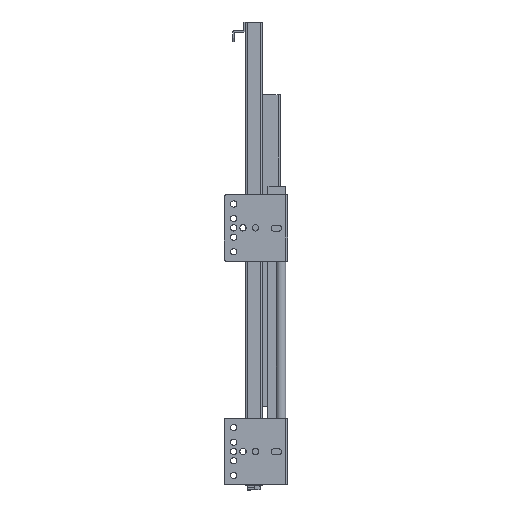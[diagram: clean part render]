
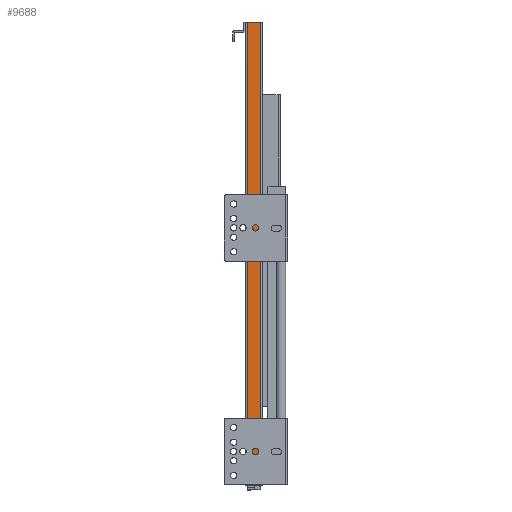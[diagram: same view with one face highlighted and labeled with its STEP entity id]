
A CAD part, left-side view. The second image highlights one B-rep face of the part: STEP entity #9688.
In plain terms, the highlighted planar face has unit normal (-1, 0, 0) as drawn and (1, 0, 0) by its records, which use the part's own axes.
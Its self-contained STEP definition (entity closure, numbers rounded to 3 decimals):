
#320=PLANE('',#10314);
#698=FACE_BOUND('',#3538,.T.);
#894=LINE('',#14156,#1950);
#898=LINE('',#14164,#1954);
#901=LINE('',#14170,#1957);
#904=LINE('',#14175,#1960);
#907=LINE('',#14185,#1963);
#908=LINE('',#14188,#1964);
#909=LINE('',#14190,#1965);
#910=LINE('',#14191,#1966);
#1950=VECTOR('',#11400,10.);
#1954=VECTOR('',#11406,10.);
#1957=VECTOR('',#11411,10.);
#1960=VECTOR('',#11416,10.);
#1963=VECTOR('',#11425,10.);
#1964=VECTOR('',#11428,10.);
#1965=VECTOR('',#11429,10.);
#1966=VECTOR('',#11430,10.);
#2970=FACE_OUTER_BOUND('',#3537,.T.);
#3537=EDGE_LOOP('',(#7065,#7066,#7067,#7068));
#3538=EDGE_LOOP('',(#7069,#7070,#7071,#7072));
#4513=VERTEX_POINT('',#14154);
#4514=VERTEX_POINT('',#14155);
#4517=VERTEX_POINT('',#14163);
#4519=VERTEX_POINT('',#14169);
#4521=VERTEX_POINT('',#14178);
#4524=VERTEX_POINT('',#14183);
#4525=VERTEX_POINT('',#14187);
#4526=VERTEX_POINT('',#14189);
#5494=EDGE_CURVE('',#4513,#4514,#894,.T.);
#5498=EDGE_CURVE('',#4514,#4517,#898,.T.);
#5501=EDGE_CURVE('',#4517,#4519,#901,.T.);
#5504=EDGE_CURVE('',#4519,#4513,#904,.T.);
#5509=EDGE_CURVE('',#4524,#4521,#907,.T.);
#5510=EDGE_CURVE('',#4524,#4525,#908,.T.);
#5511=EDGE_CURVE('',#4526,#4525,#909,.T.);
#5512=EDGE_CURVE('',#4521,#4526,#910,.T.);
#7065=ORIENTED_EDGE('',*,*,#5509,.F.);
#7066=ORIENTED_EDGE('',*,*,#5510,.T.);
#7067=ORIENTED_EDGE('',*,*,#5511,.F.);
#7068=ORIENTED_EDGE('',*,*,#5512,.F.);
#7069=ORIENTED_EDGE('',*,*,#5501,.T.);
#7070=ORIENTED_EDGE('',*,*,#5504,.T.);
#7071=ORIENTED_EDGE('',*,*,#5494,.T.);
#7072=ORIENTED_EDGE('',*,*,#5498,.T.);
#9688=ADVANCED_FACE('',(#2970,#698),#320,.T.);
#10314=AXIS2_PLACEMENT_3D('',#14186,#11426,#11427);
#11400=DIRECTION('',(0.,-1.,0.));
#11406=DIRECTION('',(0.,0.,1.));
#11411=DIRECTION('',(0.,1.,0.));
#11416=DIRECTION('',(0.,0.,-1.));
#11425=DIRECTION('',(0.,0.,1.));
#11426=DIRECTION('center_axis',(1.,0.,0.));
#11427=DIRECTION('ref_axis',(0.,1.,0.));
#11428=DIRECTION('',(0.,1.,0.));
#11429=DIRECTION('',(0.,0.,-1.));
#11430=DIRECTION('',(0.,1.,0.));
#14154=CARTESIAN_POINT('',(29.928,-3.375,-108.));
#14155=CARTESIAN_POINT('',(29.928,-10.387,-108.));
#14156=CARTESIAN_POINT('',(29.928,-10.188,-108.));
#14163=CARTESIAN_POINT('',(29.928,-10.387,-90.));
#14164=CARTESIAN_POINT('',(29.928,-10.387,-319.));
#14169=CARTESIAN_POINT('',(29.928,-3.375,-90.));
#14170=CARTESIAN_POINT('',(29.928,-13.694,-90.));
#14175=CARTESIAN_POINT('',(29.928,-3.375,-310.));
#14178=CARTESIAN_POINT('',(29.928,-15.,-84.));
#14183=CARTESIAN_POINT('',(29.928,-15.,-530.));
#14185=CARTESIAN_POINT('',(29.928,-15.,-530.));
#14186=CARTESIAN_POINT('Origin',(29.928,-17.,-530.));
#14187=CARTESIAN_POINT('',(29.928,-2.,-530.));
#14188=CARTESIAN_POINT('',(29.928,-17.,-530.));
#14189=CARTESIAN_POINT('',(29.928,-2.,-84.));
#14190=CARTESIAN_POINT('',(29.928,-2.,-530.));
#14191=CARTESIAN_POINT('',(29.928,-17.,-84.));
